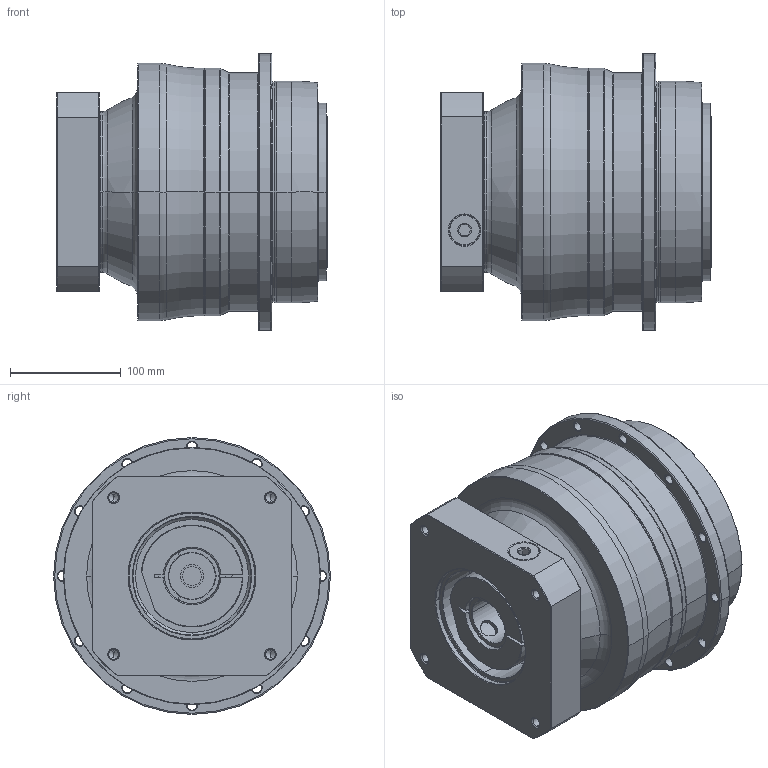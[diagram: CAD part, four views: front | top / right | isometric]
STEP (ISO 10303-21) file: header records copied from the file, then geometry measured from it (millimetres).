
FILE_DESCRIPTION((''),'2;1');
FILE_NAME('AH200_2ST_42-P0409A00101_ASM','2016-08-12T',('d01943'),(''),'PRO/ENGINEER BY PARAMETRIC TECHNOLOGY CORPORATION, 2008410','PRO/ENGINEER BY PARAMETRIC TECHNOLOGY CORPORATION, 2008410','');
FILE_SCHEMA(('CONFIG_CONTROL_DESIGN'));
Length unit declared in the file: millimetre
Products named in the file (8): P0278600003; P0359600002; P1317600501; P0409A00101; P0503A00012; P0912505001; 21711422019; AH200_2ST_42-P0409A00101_ASM
Assembly tree (7 placements, depth 2):
  AH200_2ST_42-P0409A00101_ASM
    P0278600003
    P0359600002
    P1317600501
    P0409A00101
    P0503A00012
    P0912505001
    21711422019
Bounding box: 244 x 249.5 x 249.5 mm (x, y, z)
Volume: 7780204 mm3; surface area: 583344.5 mm2
Topology: 8 solids, 8 shells, 554 faces, 1293 edges, 761 vertices
Faces by surface type: cylinder 208, cone 170, plane 96, torus 64, bspline 16
Entity records: 20310 total; most frequent: CARTESIAN_POINT 7429, DIRECTION 2901, ORIENTED_EDGE 2494, EDGE_CURVE 1247, AXIS2_PLACEMENT_3D 1226, VERTEX_POINT 761, CIRCLE 673, EDGE_LOOP 644
